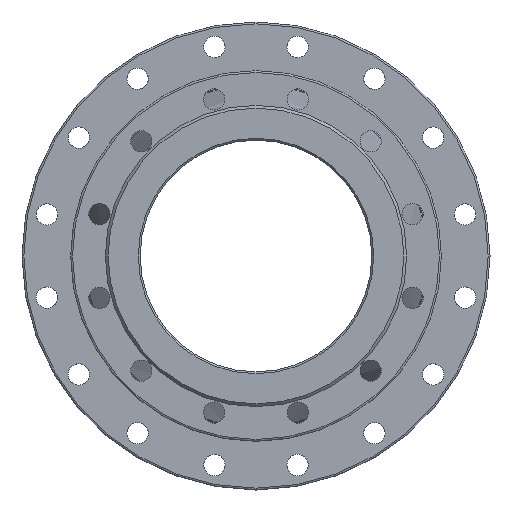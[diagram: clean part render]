
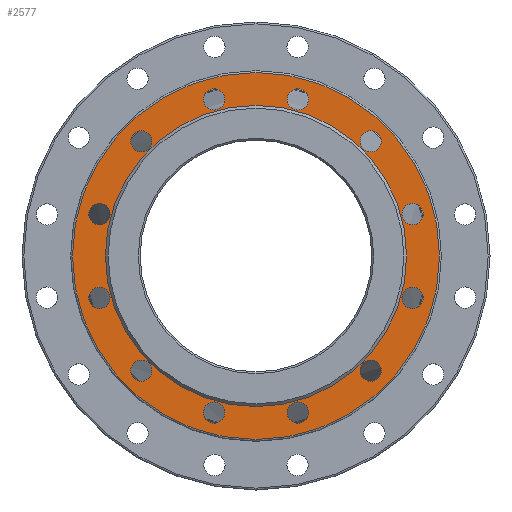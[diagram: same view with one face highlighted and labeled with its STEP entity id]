
A CAD part, left-side view. The second image highlights one B-rep face of the part: STEP entity #2577.
In plain terms, the highlighted planar face has unit normal (-1, 0, 0).
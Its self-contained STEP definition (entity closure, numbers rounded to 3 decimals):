
#5 = EDGE_CURVE ( 'NONE', #30, #30, #1427, .T. ) ;
#20 = ORIENTED_EDGE ( 'NONE', *, *, #447, .F. ) ;
#30 = VERTEX_POINT ( 'NONE', #1873 ) ;
#34 = DIRECTION ( 'NONE',  ( 0., 0.5, 0.866 ) ) ;
#74 = VERTEX_POINT ( 'NONE', #740 ) ;
#91 = CARTESIAN_POINT ( 'NONE',  ( 3., -129.494, -133.703 ) ) ;
#111 = CIRCLE ( 'NONE', #2343, 11.5 ) ;
#118 = CARTESIAN_POINT ( 'NONE',  ( 3., 0., 162.5 ) ) ;
#120 = CARTESIAN_POINT ( 'NONE',  ( 3., 0., 0. ) ) ;
#124 = EDGE_LOOP ( 'NONE', ( #1425 ) ) ;
#156 = DIRECTION ( 'NONE',  ( 0., 0., -1. ) ) ;
#168 = EDGE_LOOP ( 'NONE', ( #2143 ) ) ;
#170 = AXIS2_PLACEMENT_3D ( 'NONE', #506, #269, #1002 ) ;
#202 = EDGE_CURVE ( 'NONE', #2137, #2137, #1613, .T. ) ;
#216 = DIRECTION ( 'NONE',  ( -1., 0., 0. ) ) ;
#231 = DIRECTION ( 'NONE',  ( 0., 0., -1. ) ) ;
#241 = PLANE ( 'NONE',  #2156 ) ;
#269 = DIRECTION ( 'NONE',  ( -1., 0., 0. ) ) ;
#284 = AXIS2_PLACEMENT_3D ( 'NONE', #1398, #2002, #2080 ) ;
#309 = CARTESIAN_POINT ( 'NONE',  ( 3., 169.037, -45.293 ) ) ;
#336 = EDGE_CURVE ( 'NONE', #1673, #1673, #2273, .T. ) ;
#409 = DIRECTION ( 'NONE',  ( -1., 0., 0. ) ) ;
#414 = CARTESIAN_POINT ( 'NONE',  ( 3., -45.293, -169.037 ) ) ;
#447 = EDGE_CURVE ( 'NONE', #609, #609, #2473, .T. ) ;
#464 = FACE_BOUND ( 'NONE', #2013, .T. ) ;
#491 = CARTESIAN_POINT ( 'NONE',  ( 3., 123.744, -123.744 ) ) ;
#506 = CARTESIAN_POINT ( 'NONE',  ( 3., 0., 0. ) ) ;
#544 = DIRECTION ( 'NONE',  ( 0., -0.5, 0.866 ) ) ;
#566 = AXIS2_PLACEMENT_3D ( 'NONE', #2663, #1941, #34 ) ;
#571 = CARTESIAN_POINT ( 'NONE',  ( 3., -180.537, 45.293 ) ) ;
#609 = VERTEX_POINT ( 'NONE', #571 ) ;
#621 = AXIS2_PLACEMENT_3D ( 'NONE', #309, #1946, #1716 ) ;
#674 = CARTESIAN_POINT ( 'NONE',  ( 3., 45.293, -169.037 ) ) ;
#681 = AXIS2_PLACEMENT_3D ( 'NONE', #1727, #1502, #544 ) ;
#732 = CARTESIAN_POINT ( 'NONE',  ( 3., 169.037, 45.293 ) ) ;
#736 = FACE_BOUND ( 'NONE', #168, .T. ) ;
#740 = CARTESIAN_POINT ( 'NONE',  ( 3., 178.996, 51.043 ) ) ;
#744 = EDGE_LOOP ( 'NONE', ( #2874 ) ) ;
#747 = ORIENTED_EDGE ( 'NONE', *, *, #2248, .F. ) ;
#748 = CIRCLE ( 'NONE', #996, 11.5 ) ;
#753 = ORIENTED_EDGE ( 'NONE', *, *, #1036, .F. ) ;
#755 = FACE_BOUND ( 'NONE', #744, .T. ) ;
#759 = CARTESIAN_POINT ( 'NONE',  ( 3., 133.703, -129.494 ) ) ;
#770 = EDGE_CURVE ( 'NONE', #1510, #1510, #2345, .T. ) ;
#776 = VERTEX_POINT ( 'NONE', #759 ) ;
#781 = AXIS2_PLACEMENT_3D ( 'NONE', #2102, #2836, #2355 ) ;
#815 = VERTEX_POINT ( 'NONE', #1547 ) ;
#831 = VERTEX_POINT ( 'NONE', #1278 ) ;
#924 = ORIENTED_EDGE ( 'NONE', *, *, #202, .F. ) ;
#951 = FACE_BOUND ( 'NONE', #1833, .T. ) ;
#961 = CARTESIAN_POINT ( 'NONE',  ( 3., -51.043, 178.996 ) ) ;
#988 = EDGE_LOOP ( 'NONE', ( #1743 ) ) ;
#990 = EDGE_CURVE ( 'NONE', #831, #831, #2441, .T. ) ;
#996 = AXIS2_PLACEMENT_3D ( 'NONE', #414, #1648, #231 ) ;
#997 = DIRECTION ( 'NONE',  ( -1., 0., 0. ) ) ;
#1002 = DIRECTION ( 'NONE',  ( 0., 0., 1. ) ) ;
#1004 = FACE_OUTER_BOUND ( 'NONE', #2539, .T. ) ;
#1036 = EDGE_CURVE ( 'NONE', #2893, #2893, #1354, .T. ) ;
#1078 = AXIS2_PLACEMENT_3D ( 'NONE', #491, #1431, #2378 ) ;
#1083 = VERTEX_POINT ( 'NONE', #1312 ) ;
#1114 = ORIENTED_EDGE ( 'NONE', *, *, #770, .F. ) ;
#1116 = ORIENTED_EDGE ( 'NONE', *, *, #1157, .T. ) ;
#1134 = CARTESIAN_POINT ( 'NONE',  ( 3., -123.744, 123.744 ) ) ;
#1157 = EDGE_CURVE ( 'NONE', #815, #815, #3062, .T. ) ;
#1181 = FACE_BOUND ( 'NONE', #1654, .T. ) ;
#1188 = EDGE_LOOP ( 'NONE', ( #20 ) ) ;
#1278 = CARTESIAN_POINT ( 'NONE',  ( 3., 129.494, 133.703 ) ) ;
#1312 = CARTESIAN_POINT ( 'NONE',  ( 3., -178.996, -51.043 ) ) ;
#1354 = CIRCLE ( 'NONE', #170, 162.5 ) ;
#1381 = AXIS2_PLACEMENT_3D ( 'NONE', #2237, #2035, #2489 ) ;
#1398 = CARTESIAN_POINT ( 'NONE',  ( 3., -169.037, 45.293 ) ) ;
#1406 = FACE_BOUND ( 'NONE', #2066, .T. ) ;
#1416 = FACE_BOUND ( 'NONE', #1559, .T. ) ;
#1425 = ORIENTED_EDGE ( 'NONE', *, *, #336, .F. ) ;
#1427 = CIRCLE ( 'NONE', #2231, 11.5 ) ;
#1431 = DIRECTION ( 'NONE',  ( -1., 0., 0. ) ) ;
#1502 = DIRECTION ( 'NONE',  ( -1., 0., 0. ) ) ;
#1510 = VERTEX_POINT ( 'NONE', #1971 ) ;
#1547 = CARTESIAN_POINT ( 'NONE',  ( 3., 0., -198. ) ) ;
#1557 = CARTESIAN_POINT ( 'NONE',  ( 3., -123.744, -123.744 ) ) ;
#1559 = EDGE_LOOP ( 'NONE', ( #747 ) ) ;
#1570 = DIRECTION ( 'NONE',  ( 0., -0.5, -0.866 ) ) ;
#1586 = EDGE_CURVE ( 'NONE', #2479, #2479, #748, .T. ) ;
#1613 = CIRCLE ( 'NONE', #681, 11.5 ) ;
#1648 = DIRECTION ( 'NONE',  ( -1., 0., 0. ) ) ;
#1654 = EDGE_LOOP ( 'NONE', ( #2018 ) ) ;
#1665 = VERTEX_POINT ( 'NONE', #91 ) ;
#1672 = DIRECTION ( 'NONE',  ( 0., 0.866, 0.5 ) ) ;
#1673 = VERTEX_POINT ( 'NONE', #1736 ) ;
#1682 = VERTEX_POINT ( 'NONE', #2144 ) ;
#1716 = DIRECTION ( 'NONE',  ( 0., 1., 0. ) ) ;
#1727 = CARTESIAN_POINT ( 'NONE',  ( 3., -45.293, 169.037 ) ) ;
#1736 = CARTESIAN_POINT ( 'NONE',  ( 3., 45.293, 180.537 ) ) ;
#1739 = DIRECTION ( 'NONE',  ( -1., 0., 0. ) ) ;
#1743 = ORIENTED_EDGE ( 'NONE', *, *, #2603, .F. ) ;
#1758 = AXIS2_PLACEMENT_3D ( 'NONE', #1557, #216, #1570 ) ;
#1826 = CIRCLE ( 'NONE', #2112, 11.5 ) ;
#1831 = EDGE_LOOP ( 'NONE', ( #753 ) ) ;
#1833 = EDGE_LOOP ( 'NONE', ( #2742 ) ) ;
#1873 = CARTESIAN_POINT ( 'NONE',  ( 3., 51.043, -178.996 ) ) ;
#1891 = CARTESIAN_POINT ( 'NONE',  ( 3., 162.5, 0. ) ) ;
#1906 = FACE_BOUND ( 'NONE', #124, .T. ) ;
#1941 = DIRECTION ( 'NONE',  ( -1., 0., 0. ) ) ;
#1946 = DIRECTION ( 'NONE',  ( -1., 0., 0. ) ) ;
#1953 = CARTESIAN_POINT ( 'NONE',  ( 3., -45.293, -180.537 ) ) ;
#1957 = EDGE_CURVE ( 'NONE', #1083, #1083, #2724, .T. ) ;
#1971 = CARTESIAN_POINT ( 'NONE',  ( 3., 180.537, -45.293 ) ) ;
#2002 = DIRECTION ( 'NONE',  ( -1., 0., 0. ) ) ;
#2013 = EDGE_LOOP ( 'NONE', ( #2799 ) ) ;
#2018 = ORIENTED_EDGE ( 'NONE', *, *, #5, .F. ) ;
#2035 = DIRECTION ( 'NONE',  ( -1., 0., 0. ) ) ;
#2066 = EDGE_LOOP ( 'NONE', ( #1114 ) ) ;
#2080 = DIRECTION ( 'NONE',  ( 0., -1., 0. ) ) ;
#2102 = CARTESIAN_POINT ( 'NONE',  ( 3., -169.037, -45.293 ) ) ;
#2112 = AXIS2_PLACEMENT_3D ( 'NONE', #1134, #2296, #2337 ) ;
#2128 = FACE_BOUND ( 'NONE', #988, .T. ) ;
#2137 = VERTEX_POINT ( 'NONE', #961 ) ;
#2143 = ORIENTED_EDGE ( 'NONE', *, *, #1957, .F. ) ;
#2144 = CARTESIAN_POINT ( 'NONE',  ( 3., -133.703, 129.494 ) ) ;
#2156 = AXIS2_PLACEMENT_3D ( 'NONE', #1891, #2610, #2849 ) ;
#2231 = AXIS2_PLACEMENT_3D ( 'NONE', #674, #409, #2330 ) ;
#2237 = CARTESIAN_POINT ( 'NONE',  ( 3., 45.293, 169.037 ) ) ;
#2245 = ORIENTED_EDGE ( 'NONE', *, *, #2793, .F. ) ;
#2248 = EDGE_CURVE ( 'NONE', #74, #74, #111, .T. ) ;
#2273 = CIRCLE ( 'NONE', #1381, 11.5 ) ;
#2296 = DIRECTION ( 'NONE',  ( -1., 0., 0. ) ) ;
#2330 = DIRECTION ( 'NONE',  ( 0., 0.5, -0.866 ) ) ;
#2337 = DIRECTION ( 'NONE',  ( 0., -0.866, 0.5 ) ) ;
#2343 = AXIS2_PLACEMENT_3D ( 'NONE', #732, #997, #1672 ) ;
#2345 = CIRCLE ( 'NONE', #621, 11.5 ) ;
#2355 = DIRECTION ( 'NONE',  ( 0., -0.866, -0.5 ) ) ;
#2367 = FACE_BOUND ( 'NONE', #1831, .T. ) ;
#2371 = AXIS2_PLACEMENT_3D ( 'NONE', #120, #1739, #156 ) ;
#2378 = DIRECTION ( 'NONE',  ( 0., 0.866, -0.5 ) ) ;
#2441 = CIRCLE ( 'NONE', #566, 11.5 ) ;
#2442 = EDGE_CURVE ( 'NONE', #1665, #1665, #2557, .T. ) ;
#2473 = CIRCLE ( 'NONE', #284, 11.5 ) ;
#2479 = VERTEX_POINT ( 'NONE', #1953 ) ;
#2489 = DIRECTION ( 'NONE',  ( 0., 0., 1. ) ) ;
#2539 = EDGE_LOOP ( 'NONE', ( #1116 ) ) ;
#2557 = CIRCLE ( 'NONE', #1758, 11.5 ) ;
#2563 = CIRCLE ( 'NONE', #1078, 11.5 ) ;
#2575 = EDGE_LOOP ( 'NONE', ( #2245 ) ) ;
#2577 = ADVANCED_FACE ( 'NONE', ( #1004, #3074, #2584, #2646, #736, #464, #951, #1181, #2128, #1406, #1416, #755, #1906, #2367 ), #241, .F. ) ;
#2584 = FACE_BOUND ( 'NONE', #2575, .T. ) ;
#2603 = EDGE_CURVE ( 'NONE', #776, #776, #2563, .T. ) ;
#2610 = DIRECTION ( 'NONE',  ( 1., 0., 0. ) ) ;
#2646 = FACE_BOUND ( 'NONE', #1188, .T. ) ;
#2663 = CARTESIAN_POINT ( 'NONE',  ( 3., 123.744, 123.744 ) ) ;
#2714 = EDGE_LOOP ( 'NONE', ( #924 ) ) ;
#2724 = CIRCLE ( 'NONE', #781, 11.5 ) ;
#2742 = ORIENTED_EDGE ( 'NONE', *, *, #1586, .F. ) ;
#2793 = EDGE_CURVE ( 'NONE', #1682, #1682, #1826, .T. ) ;
#2799 = ORIENTED_EDGE ( 'NONE', *, *, #2442, .F. ) ;
#2836 = DIRECTION ( 'NONE',  ( -1., 0., 0. ) ) ;
#2849 = DIRECTION ( 'NONE',  ( 0., 0., -1. ) ) ;
#2874 = ORIENTED_EDGE ( 'NONE', *, *, #990, .F. ) ;
#2893 = VERTEX_POINT ( 'NONE', #118 ) ;
#3062 = CIRCLE ( 'NONE', #2371, 198. ) ;
#3074 = FACE_BOUND ( 'NONE', #2714, .T. ) ;
